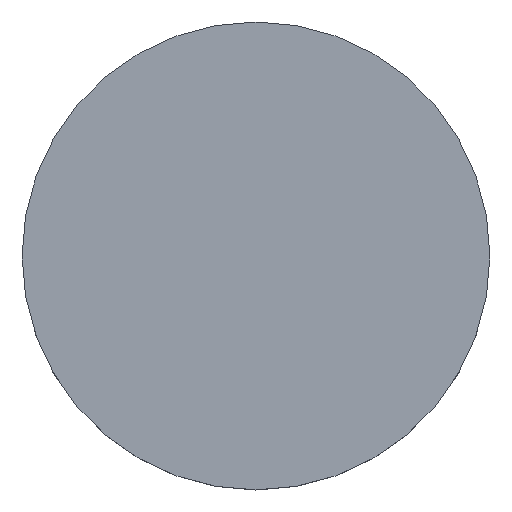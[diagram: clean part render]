
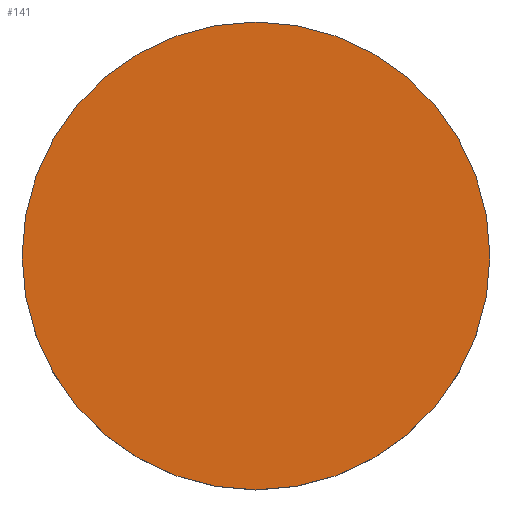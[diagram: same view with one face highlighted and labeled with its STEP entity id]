
A CAD part, top view. The second image highlights one B-rep face of the part: STEP entity #141.
In plain terms, the highlighted planar face has unit normal (0, 0, 1).
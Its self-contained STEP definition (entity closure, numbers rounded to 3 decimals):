
#110=CARTESIAN_POINT('',(-5.0,30.0,17.5));
#111=VERTEX_POINT('',#110);
#112=CARTESIAN_POINT('',(0.,30.,17.5));
#113=DIRECTION('',(0.0,0.0,1.0));
#114=DIRECTION('',(-0.814,0.581,0.0));
#115=AXIS2_PLACEMENT_3D('',#112,#113,#114);
#116=CIRCLE('',#115,5.);
#117=EDGE_CURVE('',#111,#111,#116,.T.);
#133=CARTESIAN_POINT('',(15.029,29.375,17.5));
#134=DIRECTION('',(0.0,0.0,-1.0));
#135=DIRECTION('',(-1.0,0.0,0.0));
#136=AXIS2_PLACEMENT_3D('',#133,#134,#135);
#137=PLANE('',#136);
#138=ORIENTED_EDGE('',*,*,#117,.T.);
#139=EDGE_LOOP('',(#138));
#140=FACE_OUTER_BOUND('',#139,.T.);
#141=ADVANCED_FACE('',(#140),#137,.F.);
